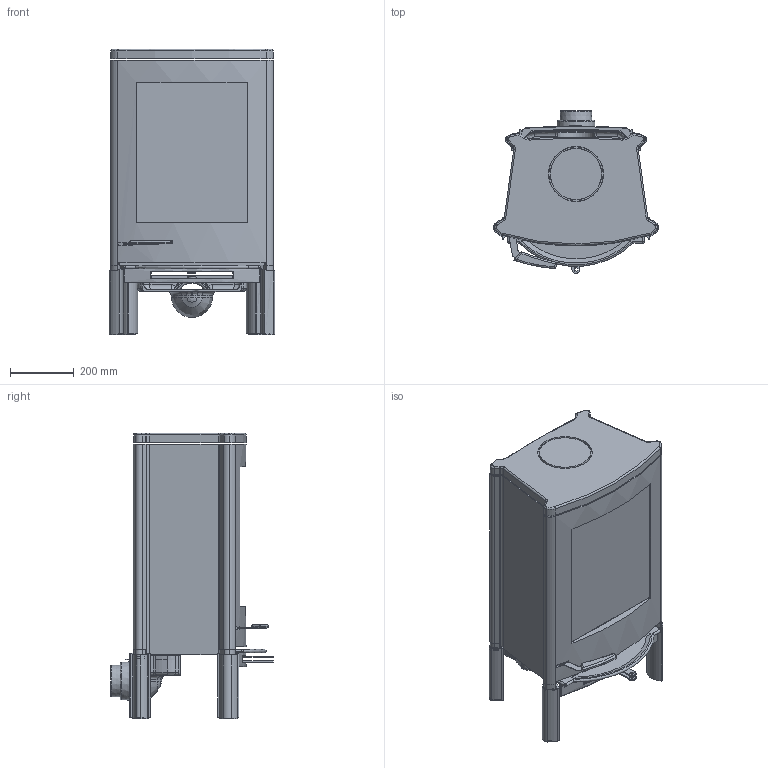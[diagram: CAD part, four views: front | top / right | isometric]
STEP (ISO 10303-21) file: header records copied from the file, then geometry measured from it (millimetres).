
FILE_DESCRIPTION((''),'2;1');
FILE_NAME('D:\Pradeep\Dovre\405.0316.DOV\Output\Astro 2 Body\ASTRO 2L\ASTRO 2L.stp','2011-03-11T12:09:50',('pw013'),(''),'Autodesk Inventor 11','Autodesk Inventor 11','');
FILE_SCHEMA(('AUTOMOTIVE_DESIGN { 1 0 10303 214 1 1 1 1 }'));
Length unit declared in the file: millimetre
Products named in the file (5): ASTRO 2L; ASTRO 2 BODY; ASTRO 2 BODY GLASS; ASTRO 2_LEGS; ASTRO 2_OUTSIDE AIR
Assembly tree (4 placements, depth 2):
  ASTRO 2L
    ASTRO 2 BODY
    ASTRO 2 BODY GLASS
    ASTRO 2_LEGS
    ASTRO 2_OUTSIDE AIR
Bounding box: 518.92 x 510 x 894 mm (x, y, z)
Volume: 26619173.5 mm3; surface area: 3654341.9 mm2
Topology: 14 solids, 14 shells, 1239 faces, 3234 edges, 1989 vertices
Faces by surface type: plane 554, cylinder 360, bspline 236, torus 64, cone 19, sphere 6
Full cylindrical faces by diameter (mm): 9 x2
Entity records: 66311 total; most frequent: CARTESIAN_POINT 36377, ORIENTED_EDGE 6396, DIRECTION 6047, EDGE_CURVE 3198, AXIS2_PLACEMENT_3D 2073, VERTEX_POINT 1988, VECTOR 1901, LINE 1901
